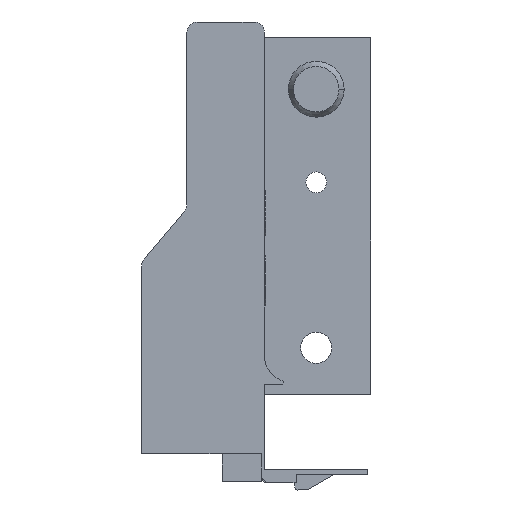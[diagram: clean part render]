
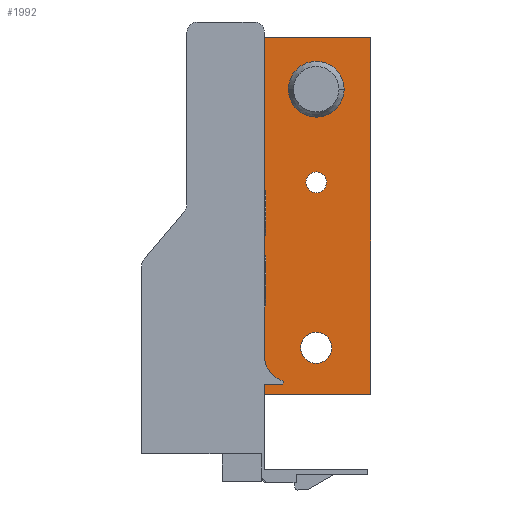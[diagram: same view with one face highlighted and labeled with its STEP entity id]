
A CAD part, front view. The second image highlights one B-rep face of the part: STEP entity #1992.
In plain terms, the highlighted planar face has unit normal (0, -1, 0).
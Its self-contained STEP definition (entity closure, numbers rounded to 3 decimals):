
#96 = EDGE_LOOP ( 'NONE', ( #333, #332 ) ) ;
#97 = EDGE_LOOP ( 'NONE', ( #331, #330 ) ) ;
#101 = EDGE_LOOP ( 'NONE', ( #327, #326, #325, #324, #323, #322 ) ) ;
#118 = EDGE_LOOP ( 'NONE', ( #329, #328 ) ) ;
#322 = ORIENTED_EDGE ( 'NONE', *, *, #462, .T. ) ;
#323 = ORIENTED_EDGE ( 'NONE', *, *, #461, .F. ) ;
#324 = ORIENTED_EDGE ( 'NONE', *, *, #613, .F. ) ;
#325 = ORIENTED_EDGE ( 'NONE', *, *, #456, .F. ) ;
#326 = ORIENTED_EDGE ( 'NONE', *, *, #607, .T. ) ;
#327 = ORIENTED_EDGE ( 'NONE', *, *, #460, .T. ) ;
#328 = ORIENTED_EDGE ( 'NONE', *, *, #459, .F. ) ;
#329 = ORIENTED_EDGE ( 'NONE', *, *, #618, .F. ) ;
#330 = ORIENTED_EDGE ( 'NONE', *, *, #458, .F. ) ;
#331 = ORIENTED_EDGE ( 'NONE', *, *, #622, .F. ) ;
#332 = ORIENTED_EDGE ( 'NONE', *, *, #457, .T. ) ;
#333 = ORIENTED_EDGE ( 'NONE', *, *, #632, .T. ) ;
#456 = EDGE_CURVE ( 'NONE', #2231, #2154, #741, .T. ) ;
#457 = EDGE_CURVE ( 'NONE', #2219, #2224, #739, .T. ) ;
#458 = EDGE_CURVE ( 'NONE', #2088, #2167, #738, .T. ) ;
#459 = EDGE_CURVE ( 'NONE', #2222, #2205, #736, .T. ) ;
#460 = EDGE_CURVE ( 'NONE', #2084, #2206, #737, .T. ) ;
#461 = EDGE_CURVE ( 'NONE', #2100, #2183, #734, .T. ) ;
#462 = EDGE_CURVE ( 'NONE', #2100, #2084, #732, .T. ) ;
#607 = EDGE_CURVE ( 'NONE', #2206, #2154, #2712, .T. ) ;
#613 = EDGE_CURVE ( 'NONE', #2183, #2231, #2603, .T. ) ;
#618 = EDGE_CURVE ( 'NONE', #2205, #2222, #2681, .T. ) ;
#622 = EDGE_CURVE ( 'NONE', #2167, #2088, #2733, .T. ) ;
#632 = EDGE_CURVE ( 'NONE', #2224, #2219, #2754, .T. ) ;
#657 = AXIS2_PLACEMENT_3D ( 'NONE', #2321, #2322, #2323 ) ;
#658 = AXIS2_PLACEMENT_3D ( 'NONE', #2324, #2325, #2326 ) ;
#659 = AXIS2_PLACEMENT_3D ( 'NONE', #2327, #2328, #2329 ) ;
#731 = VECTOR ( 'NONE', #2335, 1000. ) ;
#732 = LINE ( 'NONE', #2334, #731 ) ;
#733 = VECTOR ( 'NONE', #2333, 1000. ) ;
#734 = LINE ( 'NONE', #2332, #733 ) ;
#735 = VECTOR ( 'NONE', #2331, 1000. ) ;
#736 = CIRCLE ( 'NONE', #659, 2. ) ;
#737 = LINE ( 'NONE', #2330, #735 ) ;
#738 = CIRCLE ( 'NONE', #658, 3. ) ;
#739 = CIRCLE ( 'NONE', #657, 5.4 ) ;
#740 = VECTOR ( 'NONE', #2320, 1000. ) ;
#741 = LINE ( 'NONE', #2319, #740 ) ;
#1234 = CARTESIAN_POINT ( 'NONE',  ( 21.1, 347.2, 67. ) ) ;
#1235 = DIRECTION ( 'NONE',  ( -1., 0., 0. ) ) ;
#1248 = CARTESIAN_POINT ( 'NONE',  ( 21.1, 347.2, 27. ) ) ;
#1249 = DIRECTION ( 'NONE',  ( -1., 0., 0. ) ) ;
#1259 = CARTESIAN_POINT ( 'NONE',  ( 31.5, 347.2, 39. ) ) ;
#1260 = DIRECTION ( 'NONE',  ( 0., -1., 0. ) ) ;
#1261 = DIRECTION ( 'NONE',  ( -1., 0., 0. ) ) ;
#1269 = CARTESIAN_POINT ( 'NONE',  ( 31.5, 347.2, 7. ) ) ;
#1270 = DIRECTION ( 'NONE',  ( 0., -1., 0. ) ) ;
#1271 = DIRECTION ( 'NONE',  ( -1., 0., 0. ) ) ;
#1295 = CARTESIAN_POINT ( 'NONE',  ( 31.5, 347.2, 57. ) ) ;
#1296 = DIRECTION ( 'NONE',  ( 0., 1., 0. ) ) ;
#1297 = DIRECTION ( 'NONE',  ( -1., 0., 0. ) ) ;
#1439 = PLANE ( 'NONE',  #1891 ) ;
#1440 = CARTESIAN_POINT ( 'NONE',  ( 21.1, 347.2, 27. ) ) ;
#1441 = DIRECTION ( 'NONE',  ( 0., -1., 0. ) ) ;
#1442 = DIRECTION ( 'NONE',  ( -1., 0., 0. ) ) ;
#1684 = CARTESIAN_POINT ( 'NONE',  ( 42., 347.2, -2. ) ) ;
#1686 = CARTESIAN_POINT ( 'NONE',  ( 28.5, 347.2, 7. ) ) ;
#1694 = CARTESIAN_POINT ( 'NONE',  ( 21.5, 347.2, -2. ) ) ;
#1739 = CARTESIAN_POINT ( 'NONE',  ( 21.1, 347.2, 67. ) ) ;
#1751 = CARTESIAN_POINT ( 'NONE',  ( 34.5, 347.2, 7. ) ) ;
#1767 = CARTESIAN_POINT ( 'NONE',  ( 21.5, 347.2, 27. ) ) ;
#1789 = CARTESIAN_POINT ( 'NONE',  ( 33.5, 347.2, 39. ) ) ;
#1790 = CARTESIAN_POINT ( 'NONE',  ( 42., 347.2, 67. ) ) ;
#1803 = CARTESIAN_POINT ( 'NONE',  ( 26.1, 347.2, 57. ) ) ;
#1806 = CARTESIAN_POINT ( 'NONE',  ( 29.5, 347.2, 39. ) ) ;
#1808 = CARTESIAN_POINT ( 'NONE',  ( 36.9, 347.2, 57. ) ) ;
#1815 = CARTESIAN_POINT ( 'NONE',  ( 21.1, 347.2, 27. ) ) ;
#1847 = AXIS2_PLACEMENT_3D ( 'NONE', #1259, #1260, #1261 ) ;
#1849 = AXIS2_PLACEMENT_3D ( 'NONE', #1269, #1270, #1271 ) ;
#1855 = AXIS2_PLACEMENT_3D ( 'NONE', #1295, #1296, #1297 ) ;
#1891 = AXIS2_PLACEMENT_3D ( 'NONE', #1440, #1441, #1442 ) ;
#1992 = ADVANCED_FACE ( 'NONE', ( #2570, #2460, #2561, #2471 ), #1439, .T. ) ;
#2084 = VERTEX_POINT ( 'NONE', #1684 ) ;
#2088 = VERTEX_POINT ( 'NONE', #1686 ) ;
#2100 = VERTEX_POINT ( 'NONE', #1694 ) ;
#2154 = VERTEX_POINT ( 'NONE', #1739 ) ;
#2167 = VERTEX_POINT ( 'NONE', #1751 ) ;
#2183 = VERTEX_POINT ( 'NONE', #1767 ) ;
#2205 = VERTEX_POINT ( 'NONE', #1789 ) ;
#2206 = VERTEX_POINT ( 'NONE', #1790 ) ;
#2219 = VERTEX_POINT ( 'NONE', #1803 ) ;
#2222 = VERTEX_POINT ( 'NONE', #1806 ) ;
#2224 = VERTEX_POINT ( 'NONE', #1808 ) ;
#2231 = VERTEX_POINT ( 'NONE', #1815 ) ;
#2319 = CARTESIAN_POINT ( 'NONE',  ( 21.1, 347.2, 27. ) ) ;
#2320 = DIRECTION ( 'NONE',  ( 0., 0., 1. ) ) ;
#2321 = CARTESIAN_POINT ( 'NONE',  ( 31.5, 347.2, 57. ) ) ;
#2322 = DIRECTION ( 'NONE',  ( 0., 1., 0. ) ) ;
#2323 = DIRECTION ( 'NONE',  ( -1., 0., 0. ) ) ;
#2324 = CARTESIAN_POINT ( 'NONE',  ( 31.5, 347.2, 7. ) ) ;
#2325 = DIRECTION ( 'NONE',  ( 0., -1., 0. ) ) ;
#2326 = DIRECTION ( 'NONE',  ( -1., 0., 0. ) ) ;
#2327 = CARTESIAN_POINT ( 'NONE',  ( 31.5, 347.2, 39. ) ) ;
#2328 = DIRECTION ( 'NONE',  ( 0., -1., 0. ) ) ;
#2329 = DIRECTION ( 'NONE',  ( -1., 0., 0. ) ) ;
#2330 = CARTESIAN_POINT ( 'NONE',  ( 42., 347.2, 27. ) ) ;
#2331 = DIRECTION ( 'NONE',  ( 0., 0., 1. ) ) ;
#2332 = CARTESIAN_POINT ( 'NONE',  ( 21.5, 347.2, -2. ) ) ;
#2333 = DIRECTION ( 'NONE',  ( 0., 0., 1. ) ) ;
#2334 = CARTESIAN_POINT ( 'NONE',  ( 21.5, 347.2, -2. ) ) ;
#2335 = DIRECTION ( 'NONE',  ( 1., 0., 0. ) ) ;
#2460 = FACE_BOUND ( 'NONE', #97, .T. ) ;
#2471 = FACE_OUTER_BOUND ( 'NONE', #101, .T. ) ;
#2561 = FACE_BOUND ( 'NONE', #118, .T. ) ;
#2570 = FACE_BOUND ( 'NONE', #96, .T. ) ;
#2603 = LINE ( 'NONE', #1248, #2660 ) ;
#2660 = VECTOR ( 'NONE', #1249, 1000. ) ;
#2664 = VECTOR ( 'NONE', #1235, 1000. ) ;
#2681 = CIRCLE ( 'NONE', #1847, 2. ) ;
#2712 = LINE ( 'NONE', #1234, #2664 ) ;
#2733 = CIRCLE ( 'NONE', #1849, 3. ) ;
#2754 = CIRCLE ( 'NONE', #1855, 5.4 ) ;
